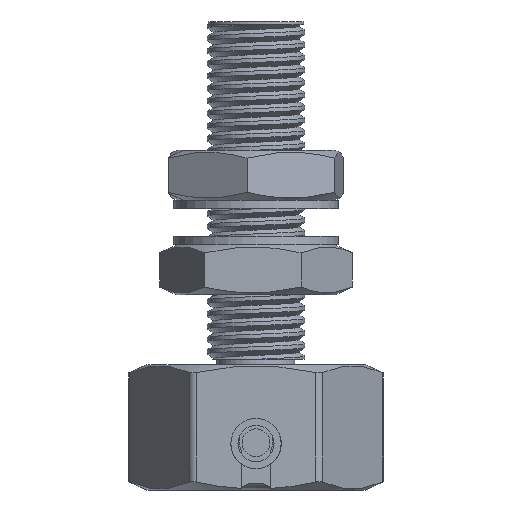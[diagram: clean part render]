
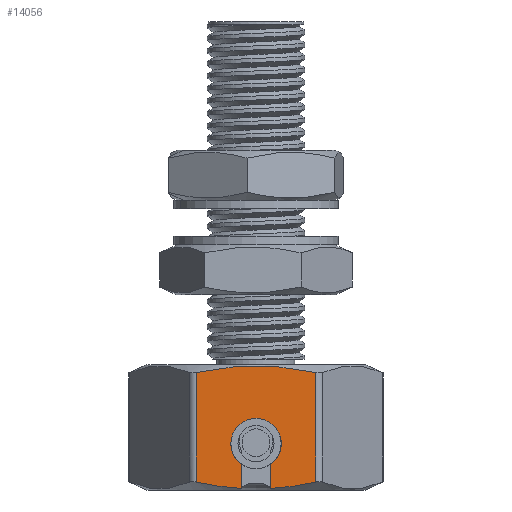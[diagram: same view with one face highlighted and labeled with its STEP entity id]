
A CAD part, front view. The second image highlights one B-rep face of the part: STEP entity #14056.
In plain terms, the highlighted planar face has unit normal (0, -1, 0).
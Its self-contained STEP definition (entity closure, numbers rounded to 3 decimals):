
#252 = CARTESIAN_POINT ( 'NONE',  ( 0.904, -4., -0.583 ) ) ;
#515 = CARTESIAN_POINT ( 'NONE',  ( -2.309, -4., 2.25 ) ) ;
#574 = AXIS2_PLACEMENT_3D ( 'NONE', #13112, #13220, #6574 ) ;
#601 = VECTOR ( 'NONE', #9272, 1000. ) ;
#721 = EDGE_CURVE ( 'NONE', #2793, #15359, #16426, .T. ) ;
#811 = DIRECTION ( 'NONE',  ( -1., 0., 0. ) ) ;
#1311 = CARTESIAN_POINT ( 'NONE',  ( -0.904, -4., -0.583 ) ) ;
#1466 = B_SPLINE_CURVE_WITH_KNOTS ( 'NONE', 3,
 ( #4128, #2661, #13298, #1500, #14853, #16130, #13345, #12030, #1558, #10848 ),
 .UNSPECIFIED., .F., .F.,
 ( 4, 2, 2, 2, 4 ),
 ( 0.007, 0.008, 0.009, 0.011, 0.012 ),
 .UNSPECIFIED. ) ;
#1500 = CARTESIAN_POINT ( 'NONE',  ( 0.713, -4., 2.19 ) ) ;
#1558 = CARTESIAN_POINT ( 'NONE',  ( -1.784, -4., 2.044 ) ) ;
#1754 = CARTESIAN_POINT ( 'NONE',  ( -1.06, -4., -2.165 ) ) ;
#1809 = CARTESIAN_POINT ( 'NONE',  ( 1.604, -4., -2.082 ) ) ;
#1833 = CARTESIAN_POINT ( 'NONE',  ( 0., -4., -0.583 ) ) ;
#2261 = CARTESIAN_POINT ( 'NONE',  ( 0.52, -4., -2.196 ) ) ;
#2445 = VERTEX_POINT ( 'NONE', #16512 ) ;
#2461 = DIRECTION ( 'NONE',  ( 0., -1., 0. ) ) ;
#2490 = EDGE_LOOP ( 'NONE', ( #3832, #16977, #12171, #11756, #9008, #5948, #6468, #8199, #14073, #15534 ) ) ;
#2659 = VERTEX_POINT ( 'NONE', #4073 ) ;
#2661 = CARTESIAN_POINT ( 'NONE',  ( 1.785, -4., 2.044 ) ) ;
#2707 = EDGE_CURVE ( 'NONE', #2659, #2897, #1466, .T. ) ;
#2793 = VERTEX_POINT ( 'NONE', #12484 ) ;
#2897 = VERTEX_POINT ( 'NONE', #3134 ) ;
#3114 = DIRECTION ( 'NONE',  ( 0., -1., 0. ) ) ;
#3134 = CARTESIAN_POINT ( 'NONE',  ( -2.136, -4., 1.968 ) ) ;
#3375 = LINE ( 'NONE', #7296, #4832 ) ;
#3832 = ORIENTED_EDGE ( 'NONE', *, *, #721, .F. ) ;
#3859 = EDGE_CURVE ( 'NONE', #6915, #2445, #4182, .T. ) ;
#4049 = EDGE_CURVE ( 'NONE', #2445, #2659, #4748, .T. ) ;
#4073 = CARTESIAN_POINT ( 'NONE',  ( 2.136, -4., 1.968 ) ) ;
#4128 = CARTESIAN_POINT ( 'NONE',  ( 2.136, -4., 1.968 ) ) ;
#4182 = B_SPLINE_CURVE_WITH_KNOTS ( 'NONE', 3,
 ( #9827, #7174, #1809, #5792 ),
 .UNSPECIFIED., .F., .F.,
 ( 4, 4 ),
 ( 0.007, 0.008 ),
 .UNSPECIFIED. ) ;
#4509 = CARTESIAN_POINT ( 'NONE',  ( -2.136, -4., -1.968 ) ) ;
#4568 = CARTESIAN_POINT ( 'NONE',  ( -0.52, -4., -2.196 ) ) ;
#4630 = VERTEX_POINT ( 'NONE', #12993 ) ;
#4748 = LINE ( 'NONE', #15746, #8721 ) ;
#4832 = VECTOR ( 'NONE', #16612, 1000. ) ;
#5240 = DIRECTION ( 'NONE',  ( 0., 0., 1. ) ) ;
#5792 = CARTESIAN_POINT ( 'NONE',  ( 2.136, -4., -1.968 ) ) ;
#5948 = ORIENTED_EDGE ( 'NONE', *, *, #11914, .T. ) ;
#6011 = B_SPLINE_CURVE_WITH_KNOTS ( 'NONE', 3,
 ( #4509, #12563, #1754, #4568 ),
 .UNSPECIFIED., .F., .F.,
 ( 4, 4 ),
 ( 0.004, 0.006 ),
 .UNSPECIFIED. ) ;
#6067 = CARTESIAN_POINT ( 'NONE',  ( -0.52, -4., -2.196 ) ) ;
#6281 = DIRECTION ( 'NONE',  ( 0., 1., 0. ) ) ;
#6429 = EDGE_CURVE ( 'NONE', #15126, #13868, #6011, .T. ) ;
#6468 = ORIENTED_EDGE ( 'NONE', *, *, #6429, .T. ) ;
#6574 = DIRECTION ( 'NONE',  ( 1., 0., 0. ) ) ;
#6915 = VERTEX_POINT ( 'NONE', #7258 ) ;
#7128 = CIRCLE ( 'NONE', #15884, 0.904 ) ;
#7158 = PLANE ( 'NONE',  #12620 ) ;
#7174 = CARTESIAN_POINT ( 'NONE',  ( 1.06, -4., -2.165 ) ) ;
#7258 = CARTESIAN_POINT ( 'NONE',  ( 0.52, -4., -2.196 ) ) ;
#7259 = DIRECTION ( 'NONE',  ( 1., 0., 0. ) ) ;
#7296 = CARTESIAN_POINT ( 'NONE',  ( -0.52, -4., -2.196 ) ) ;
#7750 = CARTESIAN_POINT ( 'NONE',  ( -2.136, -4., -1.968 ) ) ;
#7862 = AXIS2_PLACEMENT_3D ( 'NONE', #1833, #3114, #7259 ) ;
#8134 = EDGE_CURVE ( 'NONE', #14312, #4630, #13415, .T. ) ;
#8199 = ORIENTED_EDGE ( 'NONE', *, *, #9131, .F. ) ;
#8721 = VECTOR ( 'NONE', #5240, 1000. ) ;
#8746 = EDGE_CURVE ( 'NONE', #15359, #14312, #7128, .T. ) ;
#9008 = ORIENTED_EDGE ( 'NONE', *, *, #2707, .T. ) ;
#9131 = EDGE_CURVE ( 'NONE', #4630, #13868, #3375, .T. ) ;
#9272 = DIRECTION ( 'NONE',  ( 0., 0., -1. ) ) ;
#9827 = CARTESIAN_POINT ( 'NONE',  ( 0.52, -4., -2.196 ) ) ;
#10344 = DIRECTION ( 'NONE',  ( 0., 0., 1. ) ) ;
#10424 = VECTOR ( 'NONE', #10344, 1000. ) ;
#10848 = CARTESIAN_POINT ( 'NONE',  ( -2.136, -4., 1.968 ) ) ;
#11756 = ORIENTED_EDGE ( 'NONE', *, *, #4049, .T. ) ;
#11871 = DIRECTION ( 'NONE',  ( 1., 0., 0. ) ) ;
#11914 = EDGE_CURVE ( 'NONE', #2897, #15126, #13943, .T. ) ;
#12030 = CARTESIAN_POINT ( 'NONE',  ( -1.427, -4., 2.106 ) ) ;
#12171 = ORIENTED_EDGE ( 'NONE', *, *, #3859, .T. ) ;
#12484 = CARTESIAN_POINT ( 'NONE',  ( 0.52, -4., -1.322 ) ) ;
#12563 = CARTESIAN_POINT ( 'NONE',  ( -1.603, -4., -2.083 ) ) ;
#12620 = AXIS2_PLACEMENT_3D ( 'NONE', #515, #6281, #811 ) ;
#12889 = EDGE_CURVE ( 'NONE', #6915, #2793, #15188, .T. ) ;
#12993 = CARTESIAN_POINT ( 'NONE',  ( -0.52, -4., -1.322 ) ) ;
#13112 = CARTESIAN_POINT ( 'NONE',  ( 0., -4., -0.583 ) ) ;
#13220 = DIRECTION ( 'NONE',  ( 0., -1., 0. ) ) ;
#13228 = CARTESIAN_POINT ( 'NONE',  ( -2.136, -4., 2.25 ) ) ;
#13298 = CARTESIAN_POINT ( 'NONE',  ( 1.427, -4., 2.106 ) ) ;
#13345 = CARTESIAN_POINT ( 'NONE',  ( -0.713, -4., 2.19 ) ) ;
#13415 = CIRCLE ( 'NONE', #574, 0.904 ) ;
#13868 = VERTEX_POINT ( 'NONE', #6067 ) ;
#13943 = LINE ( 'NONE', #13228, #601 ) ;
#14056 = ADVANCED_FACE ( 'NONE', ( #16189 ), #7158, .F. ) ;
#14073 = ORIENTED_EDGE ( 'NONE', *, *, #8134, .F. ) ;
#14312 = VERTEX_POINT ( 'NONE', #1311 ) ;
#14583 = CARTESIAN_POINT ( 'NONE',  ( 0., -4., -0.583 ) ) ;
#14853 = CARTESIAN_POINT ( 'NONE',  ( 0.357, -4., 2.212 ) ) ;
#15126 = VERTEX_POINT ( 'NONE', #7750 ) ;
#15188 = LINE ( 'NONE', #2261, #10424 ) ;
#15359 = VERTEX_POINT ( 'NONE', #252 ) ;
#15534 = ORIENTED_EDGE ( 'NONE', *, *, #8746, .F. ) ;
#15746 = CARTESIAN_POINT ( 'NONE',  ( 2.136, -4., 2.25 ) ) ;
#15884 = AXIS2_PLACEMENT_3D ( 'NONE', #14583, #2461, #11871 ) ;
#16130 = CARTESIAN_POINT ( 'NONE',  ( -0.357, -4., 2.212 ) ) ;
#16189 = FACE_OUTER_BOUND ( 'NONE', #2490, .T. ) ;
#16426 = CIRCLE ( 'NONE', #7862, 0.904 ) ;
#16512 = CARTESIAN_POINT ( 'NONE',  ( 2.136, -4., -1.968 ) ) ;
#16612 = DIRECTION ( 'NONE',  ( 0., 0., -1. ) ) ;
#16977 = ORIENTED_EDGE ( 'NONE', *, *, #12889, .F. ) ;
